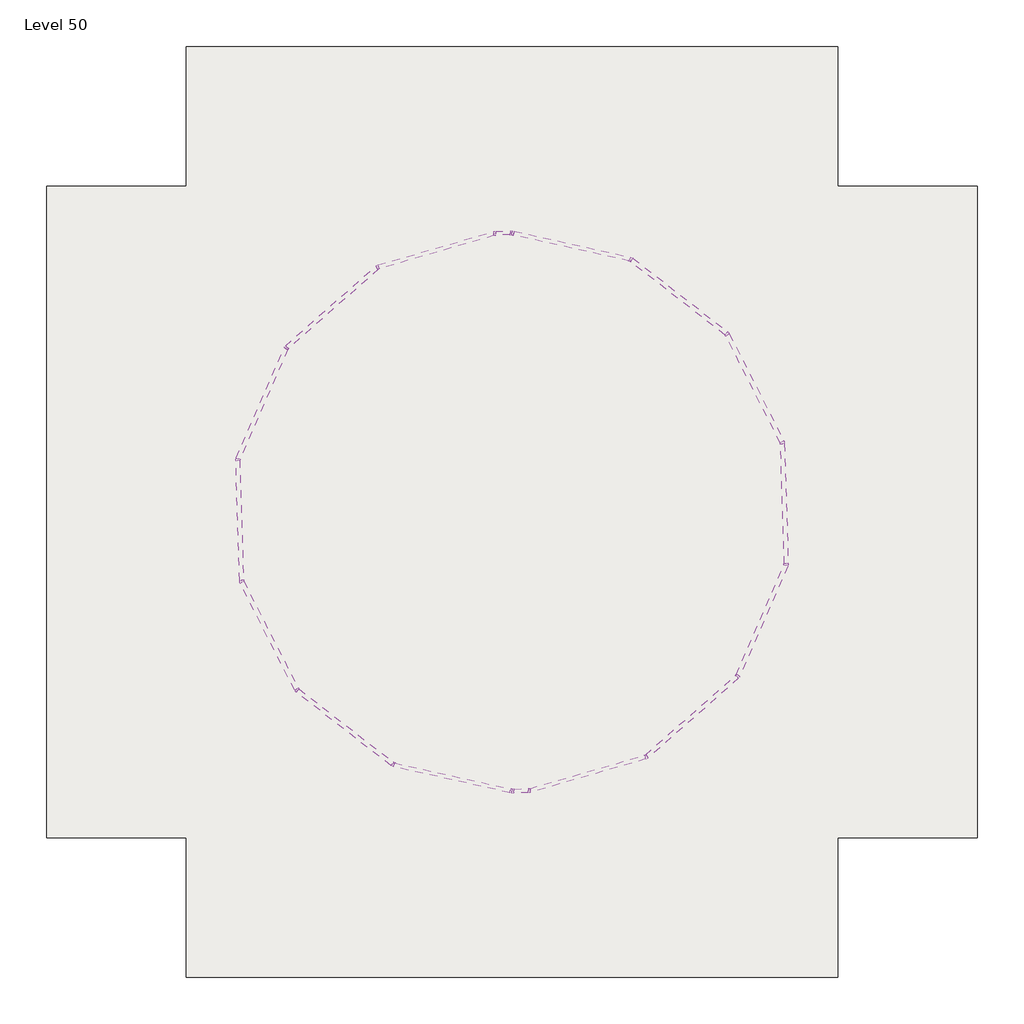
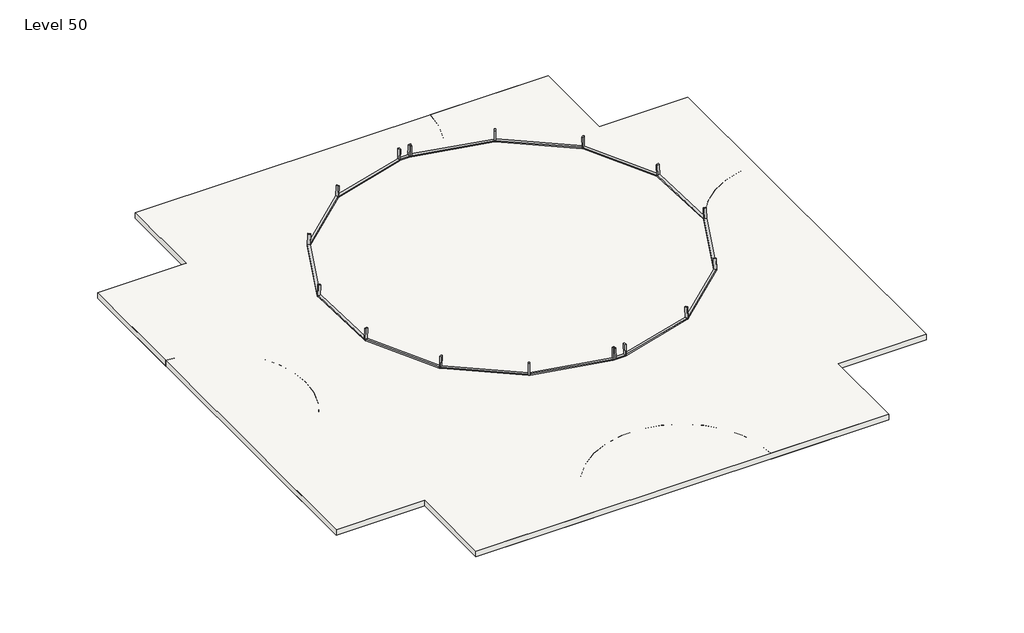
# One storey: 34 members, 3 slabs.
"""IFC4 building model written with IfcOpenShell, lengths in millimetres."""

from ifc_helpers import new_model, si_unit, point, frame, frame_2d, origin, place, context, project, spatial, polyline, circle_curve, trimmed, segment, composite_curve, outline, extrude, transform, mapped, element, save
from components import member_340acb32, member_0456bca8, member_fa179ced, member_23fb2982, member_628a761d, member_ef28eaa1

model = new_model("IFC4")

# Units and contexts
model_context = context("Model", 3, world=origin())
ifc_project = project(units=[si_unit("LENGTHUNIT", "METRE", prefix="MILLI")], contexts=[model_context])

# Site, building, storey
site = spatial("IfcSite", under=ifc_project)
building = spatial("IfcBuilding", under=site)
storey = spatial("IfcBuildingStorey", under=building, Name="Level 50", Elevation=149352.0)

# Members
placement = place(None, origin())
member_shape = member_340acb32(model_context)
element("IfcMember", 1, ObjectType="Rectangular Mullion : 2.5\" x 5\" rectangular", at=placement, inside=storey, context=model_context, shape_type="MappedRepresentation", body=[
    mapped(member_shape, transform((-3513.2075327, -12001.1345038, 153025.5719668), x_axis=(-0.6371882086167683, 0.7707082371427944, 0.0), y_axis=(-0.7702566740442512, -0.6368148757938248, 0.034226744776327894), z_axis=(0.026378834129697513, 0.021808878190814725, 0.9994140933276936))),
])
element("IfcMember", 2, ObjectType="Rectangular Mullion : 2.5\" x 5\" rectangular", at=placement, inside=storey, context=model_context, shape_type="MappedRepresentation", body=[
    mapped(member_shape, transform((-5319.3768815, -8452.9734723, 153025.5719668), x_axis=(-0.24824532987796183, 0.9686971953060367, 0.0), y_axis=(-0.9681296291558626, -0.24809988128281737, 0.03422674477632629), z_axis=(0.03315535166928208, 0.008496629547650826, 0.9994140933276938))),
])
element("IfcMember", 3, ObjectType="Rectangular Mullion : 2.5\" x 5\" rectangular", at=placement, inside=storey, context=model_context, shape_type="MappedRepresentation", body=[
    mapped(member_shape, transform((-367.8296911, -14442.0959241, 153025.5719668), x_axis=(-0.9047619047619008, 0.4259177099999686, 0.0), y_axis=(-0.4256681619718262, -0.9042317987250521, 0.03422674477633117), z_axis=(0.014577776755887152, 0.030967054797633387, 0.9994140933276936))),
])
element("IfcMember", 4, ObjectType="Rectangular Mullion : 2.5\" x 5\" rectangular", at=placement, inside=storey, context=model_context, shape_type="MappedRepresentation", body=[
    mapped(member_shape, transform((-5442.3054806, -4473.4530262, 153025.5719668), x_axis=(0.18798237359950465, 0.9821724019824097, 0.0), y_axis=(-0.9815969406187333, 0.1878722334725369, 0.03422674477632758), z_axis=(0.03361656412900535, -0.006434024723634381, 0.9994140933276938))),
])
element("IfcMember", 5, ObjectType="Rectangular Mullion : 2.5\" x 5\" rectangular", at=placement, inside=storey, context=model_context, shape_type="MappedRepresentation", body=[
    mapped(member_shape, transform((-3858.5783588, -820.5770599, 153025.5719668), x_axis=(0.5884039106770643, 0.8085671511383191, 0.0), y_axis=(-0.8080934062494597, 0.5880591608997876, 0.03422674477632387), z_axis=(0.02767462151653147, -0.020139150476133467, 0.9994140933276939))),
])
element("IfcMember", 6, ObjectType="Rectangular Mullion : 2.5\" x 5\" rectangular", at=placement, inside=storey, context=model_context, shape_type="MappedRepresentation", body=[
    mapped(member_shape, transform((-869.8578249, 1809.8685283, 153025.5719668), x_axis=(0.8767485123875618, 0.4809491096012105, 0.0), y_axis=(-0.48066731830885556, 0.8762348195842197, 0.03422674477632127), z_axis=(0.016461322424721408, -0.030008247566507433, 0.9994140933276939))),
])
element("IfcMember", 7, ObjectType="Rectangular Mullion : 2.5\" x 5\" rectangular", at=placement, inside=storey, context=model_context, shape_type="MappedRepresentation", body=[
    mapped(member_shape, transform((2954.5760193, 2916.8464834, 153025.5719668), x_axis=(0.9980933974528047, 0.061721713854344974, 0.0), y_axis=(-0.06168555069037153, 0.9975086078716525, 0.0342267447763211), z_axis=(0.002112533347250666, -0.03416148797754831, 0.999414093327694))),
])
element("IfcMember", 8, ObjectType="Rectangular Mullion : 2.5\" x 5\" rectangular", at=placement, inside=storey, context=model_context, shape_type="MappedRepresentation", body=[
    mapped(member_shape, transform((7403.1037999, 2065.4228336, 153025.5719668), x_axis=(0.9047619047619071, -0.42591770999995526, 0.0), y_axis=(0.4256681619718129, 0.9042317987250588, 0.03422674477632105), z_axis=(-0.014577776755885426, -0.030967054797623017, 0.9994140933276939))),
])
element("IfcMember", 9, ObjectType="Rectangular Mullion : 2.5\" x 5\" rectangular", at=placement, inside=storey, context=model_context, shape_type="MappedRepresentation", body=[
    mapped(member_shape, transform((10548.4816414, -375.5385867, 153025.5719668), x_axis=(0.6371882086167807, -0.7707082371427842, 0.0), y_axis=(0.7702566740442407, 0.6368148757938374, 0.03422674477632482), z_axis=(-0.026378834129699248, -0.02180887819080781, 0.9994140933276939))),
])
element("IfcMember", 10, ObjectType="Rectangular Mullion : 2.5\" x 5\" rectangular", at=placement, inside=storey, context=model_context, shape_type="MappedRepresentation", body=[
    mapped(member_shape, transform((12354.6509902, -3923.6996182, 153025.5719668), x_axis=(0.2482453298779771, -0.9686971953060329, 0.0), y_axis=(0.9681296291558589, 0.24809988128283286, 0.03422674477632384), z_axis=(-0.03315535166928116, -0.008496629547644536, 0.9994140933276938))),
])
element("IfcMember", 11, ObjectType="Rectangular Mullion : 2.5\" x 5\" rectangular", at=placement, inside=storey, context=model_context, shape_type="MappedRepresentation", body=[
    mapped(member_shape, transform((12477.5795894, -7903.2200643, 153025.5719668), x_axis=(-0.1879823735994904, -0.9821724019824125, 0.0), y_axis=(0.9815969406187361, -0.1878722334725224, 0.03422674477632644), z_axis=(-0.033616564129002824, 0.006434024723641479, 0.9994140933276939))),
])
element("IfcMember", 12, ObjectType="Rectangular Mullion : 2.5\" x 5\" rectangular", at=placement, inside=storey, context=model_context, shape_type="MappedRepresentation", body=[
    mapped(member_shape, transform((10893.8524675, -11556.0960307, 153025.5719668), x_axis=(-0.5884039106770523, -0.8085671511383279, 0.0), y_axis=(0.8080934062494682, -0.5880591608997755, 0.0342267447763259), z_axis=(-0.02767462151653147, 0.02013915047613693, 0.9994140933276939))),
])
element("IfcMember", 13, ObjectType="Rectangular Mullion : 2.5\" x 5\" rectangular", at=placement, inside=storey, context=model_context, shape_type="MappedRepresentation", body=[
    mapped(member_shape, transform((7905.1319337, -14186.5416188, 153025.5719668), x_axis=(-0.876748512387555, -0.4809491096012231, 0.0), y_axis=(0.480667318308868, -0.8762348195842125, 0.03422674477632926), z_axis=(-0.016461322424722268, 0.03000824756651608, 0.9994140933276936))),
])
element("IfcMember", 14, ObjectType="Rectangular Mullion : 2.5\" x 5\" rectangular", at=placement, inside=storey, context=model_context, shape_type="MappedRepresentation", body=[
    mapped(member_shape, transform((4080.6980895, -15293.5195739, 153025.5719668), x_axis=(-0.9980933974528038, -0.061721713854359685, 0.0), y_axis=(0.06168555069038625, -0.9975086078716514, 0.03422674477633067), z_axis=(-0.002112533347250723, 0.034161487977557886, 0.9994140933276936))),
])
member_2_shape = member_0456bca8(model_context)
element("IfcMember", 15, ObjectType="Rectangular Mullion : 2.5\" x 5\" rectangular", at=placement, inside=storey, context=model_context, shape_type="MappedRepresentation", body=[
    mapped(member_2_shape, transform((-345.9696586, -14468.4078204, 152400.0), x_axis=(-0.007289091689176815, -0.03259780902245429, -0.999441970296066), y_axis=(-0.2180961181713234, -0.9753554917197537, 0.03340281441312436), z_axis=(-0.9759000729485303, 0.2182178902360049, 0.0))),
])
element("IfcMember", 16, ObjectType="Rectangular Mullion : 2.5\" x 5\" rectangular", at=placement, inside=storey, context=model_context, shape_type="MappedRepresentation", body=[
    mapped(member_2_shape, transform((7381.2437673, 2091.7347299, 152400.0), x_axis=(0.00728909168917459, 0.03259780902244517, -0.9994419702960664), y_axis=(0.21809611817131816, 0.9753554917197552, 0.033402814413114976), z_axis=(0.9759000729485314, -0.21821789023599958, 0.0))),
])
member_3_shape = member_fa179ced(model_context)
element("IfcMember", 17, ObjectType="Rectangular Mullion : 2.5\" x 5\" rectangular", at=placement, inside=storey, context=model_context, shape_type="MappedRepresentation", body=[
    mapped(member_3_shape, transform((-3504.6361106, -12034.2510802, 152400.0), x_axis=(-0.020478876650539, -0.02638870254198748, -0.9994419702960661), y_axis=(-0.6127462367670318, -0.7895734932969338, 0.033402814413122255), z_axis=(-0.7900143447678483, 0.6130883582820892, 0.0))),
])
element("IfcMember", 18, ObjectType="Rectangular Mullion : 2.5\" x 5\" rectangular", at=placement, inside=storey, context=model_context, shape_type="MappedRepresentation", body=[
    mapped(member_3_shape, transform((-5325.7267217, -8486.5868096, 152400.0), x_axis=(-0.02976792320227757, -0.01515317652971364, -0.9994419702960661), y_axis=(-0.8906827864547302, -0.4533965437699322, 0.03340281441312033), z_axis=(-0.45364969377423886, 0.8911800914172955, 0.0))),
])
element("IfcMember", 19, ObjectType="Rectangular Mullion : 2.5\" x 5\" rectangular", at=placement, inside=storey, context=model_context, shape_type="MappedRepresentation", body=[
    mapped(member_3_shape, transform((-5462.3670898, -4501.1605838, 152400.0), x_axis=(-0.03338688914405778, -0.0010313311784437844, -0.9994419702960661), y_axis=(-0.998965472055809, -0.03085834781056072, 0.03340281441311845), z_axis=(-0.03087557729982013, 0.9995232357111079, 0.0))),
])
element("IfcMember", 20, ObjectType="Rectangular Mullion : 2.5\" x 5\" rectangular", at=placement, inside=storey, context=model_context, shape_type="MappedRepresentation", body=[
    mapped(member_3_shape, transform((-3888.530478, -837.1012078, 152400.0), x_axis=(-0.030646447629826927, 0.013286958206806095, -0.9994419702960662), y_axis=(-0.9169690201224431, 0.39755762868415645, 0.033402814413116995), z_axis=(0.3977796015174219, 0.917481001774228, 0.0))),
])
element("IfcMember", 21, ObjectType="Rectangular Mullion : 2.5\" x 5\" rectangular", at=placement, inside=storey, context=model_context, shape_type="MappedRepresentation", body=[
    mapped(member_3_shape, transform((-903.9952886, 1807.6752467, 152400.0), x_axis=(-0.022068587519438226, 0.025074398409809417, -0.9994419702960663), y_axis=(-0.660311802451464, 0.7502483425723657, 0.03340281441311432), z_axis=(0.7506672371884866, 0.6606804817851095, 0.0))),
])
element("IfcMember", 22, ObjectType="Rectangular Mullion : 2.5\" x 5\" rectangular", at=placement, inside=storey, context=model_context, shape_type="MappedRepresentation", body=[
    mapped(member_3_shape, transform((2922.7555852, 2929.4018361, 152400.0), x_axis=(-0.00928718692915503, 0.03208576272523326, -0.9994419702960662), y_axis=(-0.27788090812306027, 0.9600346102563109, 0.033402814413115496), z_axis=(0.9605706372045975, 0.2780360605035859, 0.0))),
])
element("IfcMember", 23, ObjectType="Rectangular Mullion : 2.5\" x 5\" rectangular", at=placement, inside=storey, context=model_context, shape_type="MappedRepresentation", body=[
    mapped(member_3_shape, transform((10539.9102194, -342.4220103, 152400.0), x_axis=(0.02047887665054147, 0.026388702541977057, -0.9994419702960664), y_axis=(0.6127462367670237, 0.7895734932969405, 0.03340281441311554), z_axis=(0.7900143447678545, -0.6130883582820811, 0.0))),
])
element("IfcMember", 24, ObjectType="Rectangular Mullion : 2.5\" x 5\" rectangular", at=placement, inside=storey, context=model_context, shape_type="MappedRepresentation", body=[
    mapped(member_3_shape, transform((12361.0008305, -3890.086281, 152400.0), x_axis=(0.0297679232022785, 0.015153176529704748, -0.9994419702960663), y_axis=(0.8906827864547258, 0.4533965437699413, 0.03340281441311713), z_axis=(0.4536496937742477, -0.891180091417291, 0.0))),
])
element("IfcMember", 25, ObjectType="Rectangular Mullion : 2.5\" x 5\" rectangular", at=placement, inside=storey, context=model_context, shape_type="MappedRepresentation", body=[
    mapped(member_3_shape, transform((12497.6411985, -7875.5125067, 152400.0), x_axis=(0.03338688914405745, 0.0010313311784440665, -0.9994419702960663), y_axis=(0.9989654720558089, 0.030858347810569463, 0.033402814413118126), z_axis=(0.030875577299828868, -0.9995232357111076, 0.0))),
])
element("IfcMember", 26, ObjectType="Rectangular Mullion : 2.5\" x 5\" rectangular", at=placement, inside=storey, context=model_context, shape_type="MappedRepresentation", body=[
    mapped(member_3_shape, transform((10923.8045867, -11539.5718827, 152400.0), x_axis=(0.03064644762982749, -0.013286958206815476, -0.9994419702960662), y_axis=(0.9169690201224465, -0.397557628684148, 0.033402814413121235), z_axis=(-0.3977796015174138, -0.9174810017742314, 0.0))),
])
element("IfcMember", 27, ObjectType="Rectangular Mullion : 2.5\" x 5\" rectangular", at=placement, inside=storey, context=model_context, shape_type="MappedRepresentation", body=[
    mapped(member_3_shape, transform((7939.2693973, -14184.3483372, 152400.0), x_axis=(0.0220685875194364, -0.025074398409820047, -0.9994419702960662), y_axis=(0.6603118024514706, -0.7502483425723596, 0.03340281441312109), z_axis=(-0.750667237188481, -0.660680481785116, 0.0))),
])
element("IfcMember", 28, ObjectType="Rectangular Mullion : 2.5\" x 5\" rectangular", at=placement, inside=storey, context=model_context, shape_type="MappedRepresentation", body=[
    mapped(member_3_shape, transform((4112.5185236, -15306.0749267, 152400.0), x_axis=(0.00928718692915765, -0.03208576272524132, -0.999441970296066), y_axis=(0.277880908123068, -0.9600346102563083, 0.03340281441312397), z_axis=(-0.9605706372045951, -0.27803606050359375, 0.0))),
])
member_4_shape = member_23fb2982(model_context)
element("IfcMember", 29, ObjectType="Rectangular Mullion : 2.5\" x 5\" rectangular", at=placement, inside=storey, context=model_context, shape_type="MappedRepresentation", body=[
    mapped(member_4_shape, transform((3454.1673289, 2953.7028556, 152400.0), x_axis=(-0.0010562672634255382, 0.03419413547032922, -0.9994146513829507), y_axis=(-0.03085750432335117, 0.9989381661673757, 0.034210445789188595), z_axis=(0.9995232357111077, 0.030875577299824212, 0.0))),
])
element("IfcMember", 30, ObjectType="Rectangular Mullion : 2.5\" x 5\" rectangular", at=placement, inside=storey, context=model_context, shape_type="MappedRepresentation", body=[
    mapped(member_4_shape, transform((3581.1067798, -15330.3759461, 152400.0), x_axis=(0.0010562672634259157, -0.034194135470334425, -0.9994146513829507), y_axis=(0.03085750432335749, -0.9989381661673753, 0.0342104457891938), z_axis=(-0.9995232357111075, -0.030875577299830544, 0.0))),
])
member_5_shape = member_628a761d(model_context)
element("IfcMember", 31, ObjectType="Rectangular Mullion : 2.5\" x 5\" rectangular", at=placement, inside=storey, context=model_context, shape_type="MappedRepresentation", body=[
    mapped(member_5_shape, transform((3517.6370544, 2934.2396103, 153025.5719668), x_axis=(0.9995237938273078, 0.030839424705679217, 0.0010561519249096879), y_axis=(-0.03085750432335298, 0.9989381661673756, 0.03421044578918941), z_axis=(0.0, -0.03422674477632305, 0.9994140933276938))),
])
element("IfcMember", 32, ObjectType="Rectangular Mullion : 2.5\" x 5\" rectangular", at=placement, inside=storey, context=model_context, shape_type="MappedRepresentation", body=[
    mapped(member_5_shape, transform((3517.6370544, -15310.9127008, 153025.5719668), x_axis=(-0.9995237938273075, -0.030839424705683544, 0.0010561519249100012), y_axis=(0.030857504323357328, -0.9989381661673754, 0.03421044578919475), z_axis=(0.0, 0.0342267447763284, 0.9994140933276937))),
])
member_6_shape = member_ef28eaa1(model_context)
element("IfcMember", 33, ObjectType="Rectangular Mullion : 2.5\" x 5\" rectangular", at=placement, inside=storey, context=model_context, shape_type="MappedRepresentation", body=[
    mapped(member_6_shape, transform((3517.6370544, -15332.3365453, 152400.0), x_axis=(0.975927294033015, -0.2179683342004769, 0.007464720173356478), y_axis=(-0.2180961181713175, -0.9753554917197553, 0.033402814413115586), z_axis=(0.0, -0.03422674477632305, -0.9994140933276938))),
])
element("IfcMember", 34, ObjectType="Rectangular Mullion : 2.5\" x 5\" rectangular", at=placement, inside=storey, context=model_context, shape_type="MappedRepresentation", body=[
    mapped(member_6_shape, transform((3517.6370544, 2955.6634547, 152400.0), x_axis=(-0.9759272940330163, 0.21796833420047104, 0.007464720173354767), y_axis=(0.2180961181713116, 0.9753554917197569, 0.03340281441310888), z_axis=(0.0, 0.03422674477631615, -0.9994140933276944))),
])

# Slabs
element("IfcSlab", 35, ObjectType="Generic - 12\"", at=placement, inside=storey, context=model_context, shape_type="SweptSolid", body=[
    extrude(outline(polyline([(-7150.3629456, 4479.6634547), (-7150.3629456, 9051.6634547), (14185.6370544, 9051.6634547), (14185.6370544, 4479.6634547), (18757.6370544, 4479.6634547), (18757.6370544, -16856.3365453), (14185.6370544, -16856.3365453), (14185.6370544, -21428.3365453), (-7150.3629456, -21428.3365453), (-7150.3629456, -16856.3365453), (-11722.3629456, -16856.3365453), (-11722.3629456, 4479.6634547), (-7150.3629456, 4479.6634547)])), frame((0.0, 0.0, 149047.2), z_axis=(0.0, 0.0, 1.0), x_axis=(1.0, 0.0, 0.0)), (0.0, 0.0, 1.0), 304.8),
])
element("IfcSlab", 36, ObjectType="Generic - 12\"", at=placement, inside=storey, context=model_context, shape_type="SweptSolid", body=[
    extrude(outline(polyline([(-7150.3629456, 4479.6634547), (-7150.3629456, 9051.6634547), (14185.6370544, 9051.6634547), (14185.6370544, 4479.6634547), (18757.6370544, 4479.6634547), (18757.6370544, -16856.3365453), (14185.6370544, -16856.3365453), (14185.6370544, -21428.3365453), (-7150.3629456, -21428.3365453), (-7150.3629456, -16856.3365453), (-11722.3629456, -16856.3365453), (-11722.3629456, 4479.6634547), (-7150.3629456, 4479.6634547)])), frame((0.0, 0.0, 149047.2), z_axis=(0.0, 0.0, 1.0), x_axis=(1.0, 0.0, 0.0)), (0.0, 0.0, 1.0), 304.8),
])
element("IfcSlab", 37, ObjectType="Generic - 12\"", at=placement, inside=storey, context=model_context, shape_type="SweptSolid", body=[
    extrude(outline(composite_curve([segment(polyline([(-7150.3629456, 4479.6634547), (-7150.3629456, 9051.6634547), (-1054.3629456, 9051.6634547)]), True, "CONTINUOUS"), segment(trimmed(circle_curve(frame_2d((3517.6370544, 9051.6634547)), 4572.0), [point((-1054.3629456, 9051.6634547))], [point((8089.6370544, 9051.6634547))], True, "CARTESIAN"), True, "CONTINUOUS"), segment(polyline([(8089.6370544, 9051.6634547), (14185.6370544, 9051.6634547), (14185.6370544, 4479.6634547), (18757.6370544, 4479.6634547), (18757.6370544, -1616.3365453)]), True, "CONTINUOUS"), segment(trimmed(circle_curve(frame_2d((18757.6370544, -6188.3365453)), 4572.0), [point((18757.6370544, -1616.3365453))], [point((18757.6370544, -10760.3365453))], True, "CARTESIAN"), True, "CONTINUOUS"), segment(polyline([(18757.6370544, -10760.3365453), (18757.6370544, -16856.3365453), (14185.6370544, -16856.3365453), (14185.6370544, -21428.3365453), (8089.6370544, -21428.3365453)]), True, "CONTINUOUS"), segment(trimmed(circle_curve(frame_2d((3517.6370544, -21428.3365453)), 4572.0), [point((8089.6370544, -21428.3365453))], [point((-1054.3629456, -21428.3365453))], True, "CARTESIAN"), True, "CONTINUOUS"), segment(polyline([(-1054.3629456, -21428.3365453), (-7150.3629456, -21428.3365453), (-7150.3629456, -16856.3365453), (-11722.3629456, -16856.3365453), (-11722.3629456, -10760.3365453)]), True, "CONTINUOUS"), segment(trimmed(circle_curve(frame_2d((-11722.3629456, -6188.3365453)), 4572.0), [point((-11722.3629456, -10760.3365453))], [point((-11722.3629456, -1616.3365453))], True, "CARTESIAN"), True, "CONTINUOUS"), segment(polyline([(-11722.3629456, -1616.3365453), (-11722.3629456, 4479.6634547), (-7150.3629456, 4479.6634547)]), True, "CONTINUOUS")], self_intersect=False)), frame((0.0, 0.0, 149047.2), z_axis=(0.0, 0.0, 1.0), x_axis=(1.0, 0.0, 0.0)), (0.0, 0.0, 1.0), 304.8),
])

save(model, "model.ifc")
